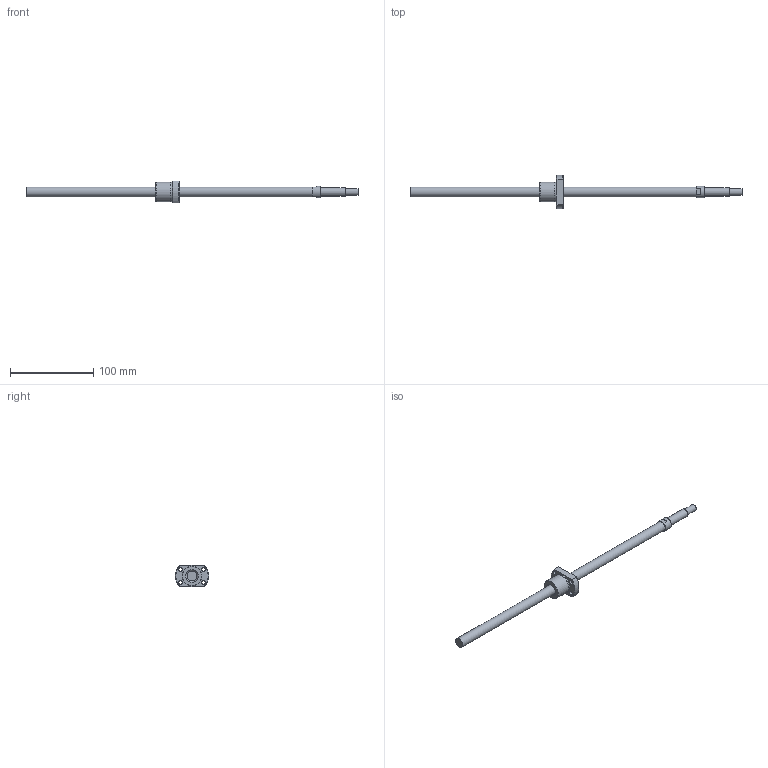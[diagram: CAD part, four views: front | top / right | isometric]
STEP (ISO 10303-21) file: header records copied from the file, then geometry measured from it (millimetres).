
FILE_DESCRIPTION(/* description */ ('STEP AP214'),/* implementation_level */ '2;1');
FILE_NAME(/* name */ 'NSGF1202Z-341R400C3-0-T-S-T-A-(156.5-S)',/* time_stamp */ '2026-08-24T20:17:31+02:00',/* author */ ('License CC BY-ND 4.0'),/* organization */ ('CADENAS'),/* preprocessor_version */ 'ST-DEVELOPER v20',/* originating_system */ 'PARTsolutions',/* authorisation */ ' ');
FILE_SCHEMA (('AUTOMOTIVE_DESIGN {1 0 10303 214 3 1 1}'));
Length unit declared in the file: millimetre
Products named in the file (3): NSGF1202Z-341R400C3-0-T-S-T-A-(156.5-S); NSG1202Z-341R40028_(T-S_T-A_2)-2; NSGF1202Z-1
Assembly tree (2 placements, depth 2):
  NSGF1202Z-341R400C3-0-T-S-T-A-(156.5-S)
    NSG1202Z-341R40028_(T-S_T-A_2)-2
    NSGF1202Z-1
Bounding box: 400 x 39.88 x 26 mm (x, y, z)
Volume: 55897.6 mm3; surface area: 20597.7 mm2
Topology: 2 solids, 2 shells, 40 faces, 88 edges, 57 vertices
Faces by surface type: plane 17, cylinder 14, cone 8, torus 1
Full cylindrical faces by diameter (mm): 4.5 x4, 8 x1, 10 x1, 12 x2, 14 x1, 17 x1, 23.7 x1, 24 x1
Entity records: 1095 total; most frequent: CARTESIAN_POINT 187, DIRECTION 186, ORIENTED_EDGE 134, AXIS2_PLACEMENT_3D 84, EDGE_LOOP 72, FACE_BOUND 72, EDGE_CURVE 67, VERTEX_POINT 53
